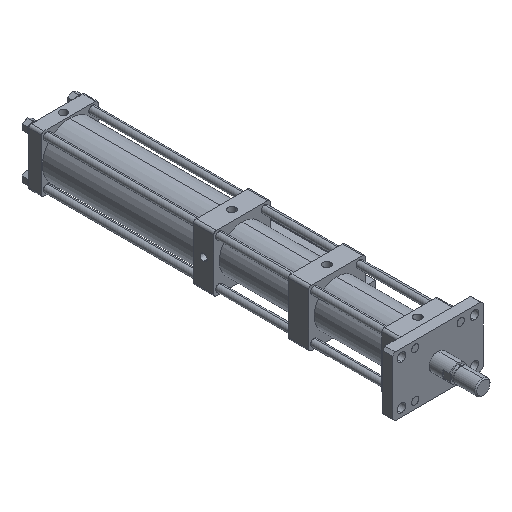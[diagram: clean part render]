
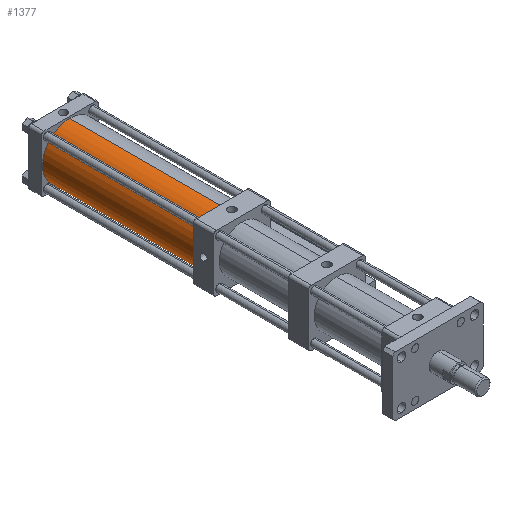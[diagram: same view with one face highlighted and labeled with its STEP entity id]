
A CAD part, isometric view. The second image highlights one B-rep face of the part: STEP entity #1377.
In plain terms, the highlighted cylindrical face has radius 54 mm (diameter 108 mm), a partial arc.
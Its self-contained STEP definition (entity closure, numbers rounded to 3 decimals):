
#20 = AXIS2_PLACEMENT_3D ( 'NONE', #341, #4631, #975 ) ;
#341 = CARTESIAN_POINT ( 'NONE',  ( 0., 729.002, -1.638 ) ) ;
#788 = CARTESIAN_POINT ( 'NONE',  ( 0., 729.002, -55.638 ) ) ;
#975 = DIRECTION ( 'NONE',  ( 0., 0., 1. ) ) ;
#1009 = VERTEX_POINT ( 'NONE', #7306 ) ;
#1196 = EDGE_CURVE ( 'NONE', #2447, #1009, #1300, .T. ) ;
#1300 = LINE ( 'NONE', #788, #7620 ) ;
#1334 = CIRCLE ( 'NONE', #7621, 54. ) ;
#1377 = ADVANCED_FACE ( 'NONE', ( #3505 ), #1682, .T. ) ;
#1599 = CARTESIAN_POINT ( 'NONE',  ( 0., 729.002, -1.638 ) ) ;
#1682 = CYLINDRICAL_SURFACE ( 'NONE', #7279, 54. ) ;
#2447 = VERTEX_POINT ( 'NONE', #4581 ) ;
#2705 = CARTESIAN_POINT ( 'NONE',  ( 0., 729.002, 52.362 ) ) ;
#2770 = EDGE_CURVE ( 'NONE', #1009, #4378, #1334, .T. ) ;
#2771 = ORIENTED_EDGE ( 'NONE', *, *, #1196, .T. ) ;
#2989 = ORIENTED_EDGE ( 'NONE', *, *, #4777, .F. ) ;
#3505 = FACE_OUTER_BOUND ( 'NONE', #6990, .T. ) ;
#3571 = DIRECTION ( 'NONE',  ( 0., 1., 0. ) ) ;
#4269 = LINE ( 'NONE', #2705, #7509 ) ;
#4378 = VERTEX_POINT ( 'NONE', #6719 ) ;
#4581 = CARTESIAN_POINT ( 'NONE',  ( 0., 729.002, -55.638 ) ) ;
#4631 = DIRECTION ( 'NONE',  ( 0., 1., 0. ) ) ;
#4777 = EDGE_CURVE ( 'NONE', #5078, #4378, #4269, .T. ) ;
#4867 = CIRCLE ( 'NONE', #20, 54. ) ;
#5068 = DIRECTION ( 'NONE',  ( 0., -1., 0. ) ) ;
#5078 = VERTEX_POINT ( 'NONE', #6178 ) ;
#6178 = CARTESIAN_POINT ( 'NONE',  ( 0., 729.002, 52.362 ) ) ;
#6564 = EDGE_CURVE ( 'NONE', #2447, #5078, #4867, .T. ) ;
#6719 = CARTESIAN_POINT ( 'NONE',  ( 0., 428.002, 52.362 ) ) ;
#6976 = DIRECTION ( 'NONE',  ( 0., -1., 0. ) ) ;
#6990 = EDGE_LOOP ( 'NONE', ( #2989, #7115, #2771, #7181 ) ) ;
#7108 = DIRECTION ( 'NONE',  ( 0., -1., 0. ) ) ;
#7115 = ORIENTED_EDGE ( 'NONE', *, *, #6564, .F. ) ;
#7181 = ORIENTED_EDGE ( 'NONE', *, *, #2770, .T. ) ;
#7235 = CARTESIAN_POINT ( 'NONE',  ( 0., 428.002, -1.638 ) ) ;
#7279 = AXIS2_PLACEMENT_3D ( 'NONE', #1599, #7108, #7738 ) ;
#7306 = CARTESIAN_POINT ( 'NONE',  ( 0., 428.002, -55.638 ) ) ;
#7509 = VECTOR ( 'NONE', #6976, 1000. ) ;
#7620 = VECTOR ( 'NONE', #5068, 1000. ) ;
#7621 = AXIS2_PLACEMENT_3D ( 'NONE', #7235, #3571, #7852 ) ;
#7738 = DIRECTION ( 'NONE',  ( 0., 0., -1. ) ) ;
#7852 = DIRECTION ( 'NONE',  ( 0., 0., 1. ) ) ;
